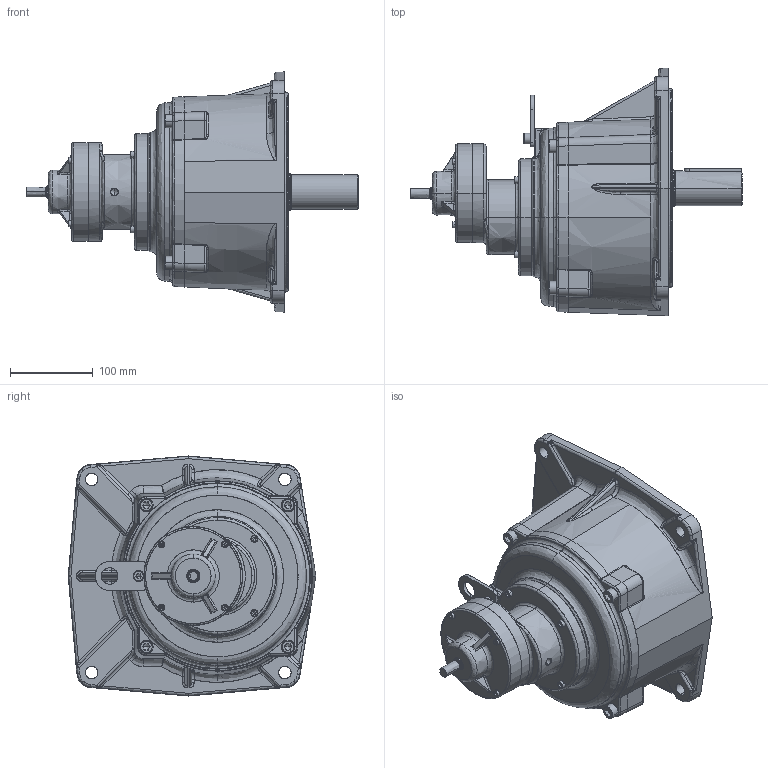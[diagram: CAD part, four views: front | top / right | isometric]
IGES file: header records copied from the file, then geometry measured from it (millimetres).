
Start section: SolidWorks IGES file using analytic representation for surfaces
Bounding box: 401 x 299 x 290 mm (x, y, z)
Surface area: 590262.2 mm2 (no closed solid volume)
Topology: 0 solids, 0 shells, 1054 faces, 13553 edges, 13480 vertices
Faces by surface type: bspline 604, revolution 450
